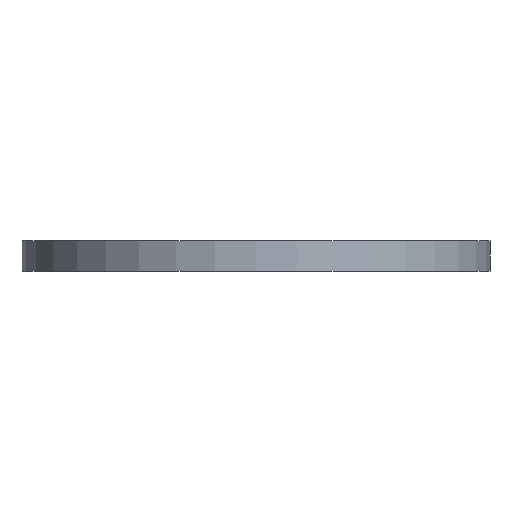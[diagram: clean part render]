
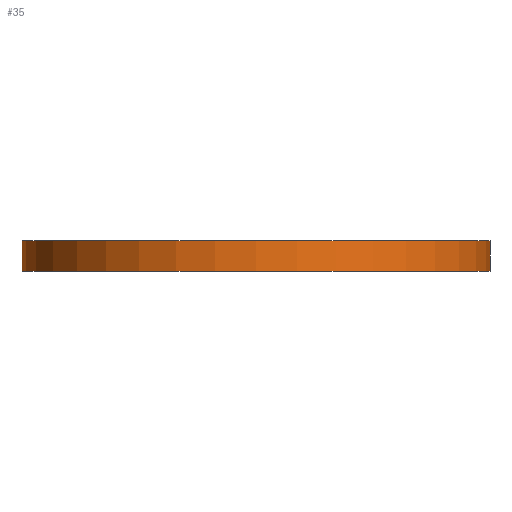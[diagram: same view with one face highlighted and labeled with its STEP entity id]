
A CAD part, front view. The second image highlights one B-rep face of the part: STEP entity #35.
In plain terms, the highlighted cylindrical face has radius 18.4 mm (diameter 36.8 mm), a full revolution.
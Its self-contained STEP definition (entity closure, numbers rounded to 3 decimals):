
#35 = ADVANCED_FACE('',(#36),#49,.T.);
#36 = FACE_BOUND('',#37,.T.);
#37 = EDGE_LOOP('',(#38,#72,#95,#122));
#38 = ORIENTED_EDGE('',*,*,#39,.F.);
#39 = EDGE_CURVE('',#40,#40,#42,.T.);
#40 = VERTEX_POINT('',#41);
#41 = CARTESIAN_POINT('',(18.4,0.,1.2));
#42 = SURFACE_CURVE('',#43,(#48,#60),.PCURVE_S1.);
#43 = CIRCLE('',#44,18.4);
#44 = AXIS2_PLACEMENT_3D('',#45,#46,#47);
#45 = CARTESIAN_POINT('',(0.,0.,1.2));
#46 = DIRECTION('',(0.,0.,1.));
#47 = DIRECTION('',(1.,0.,-0.));
#48 = PCURVE('',#49,#54);
#49 = CYLINDRICAL_SURFACE('',#50,18.4);
#50 = AXIS2_PLACEMENT_3D('',#51,#52,#53);
#51 = CARTESIAN_POINT('',(0.,0.,-1.2));
#52 = DIRECTION('',(0.,0.,1.));
#53 = DIRECTION('',(1.,0.,-0.));
#54 = DEFINITIONAL_REPRESENTATION('',(#55),#59);
#55 = LINE('',#56,#57);
#56 = CARTESIAN_POINT('',(0.,2.4));
#57 = VECTOR('',#58,1.);
#58 = DIRECTION('',(1.,0.));
#59 = ( GEOMETRIC_REPRESENTATION_CONTEXT(2) 
PARAMETRIC_REPRESENTATION_CONTEXT() REPRESENTATION_CONTEXT('2D SPACE',''
  ) );
#60 = PCURVE('',#61,#66);
#61 = PLANE('',#62);
#62 = AXIS2_PLACEMENT_3D('',#63,#64,#65);
#63 = CARTESIAN_POINT('',(0.,0.,1.2));
#64 = DIRECTION('',(0.,0.,1.));
#65 = DIRECTION('',(1.,0.,-0.));
#66 = DEFINITIONAL_REPRESENTATION('',(#67),#71);
#67 = CIRCLE('',#68,18.4);
#68 = AXIS2_PLACEMENT_2D('',#69,#70);
#69 = CARTESIAN_POINT('',(0.,0.));
#70 = DIRECTION('',(1.,0.));
#71 = ( GEOMETRIC_REPRESENTATION_CONTEXT(2) 
PARAMETRIC_REPRESENTATION_CONTEXT() REPRESENTATION_CONTEXT('2D SPACE',''
  ) );
#72 = ORIENTED_EDGE('',*,*,#73,.F.);
#73 = EDGE_CURVE('',#74,#40,#76,.T.);
#74 = VERTEX_POINT('',#75);
#75 = CARTESIAN_POINT('',(18.4,0.,-1.2));
#76 = SEAM_CURVE('',#77,(#81,#88),.PCURVE_S1.);
#77 = LINE('',#78,#79);
#78 = CARTESIAN_POINT('',(18.4,0.,-1.2));
#79 = VECTOR('',#80,1.);
#80 = DIRECTION('',(0.,0.,1.));
#81 = PCURVE('',#49,#82);
#82 = DEFINITIONAL_REPRESENTATION('',(#83),#87);
#83 = LINE('',#84,#85);
#84 = CARTESIAN_POINT('',(0.,0.));
#85 = VECTOR('',#86,1.);
#86 = DIRECTION('',(0.,1.));
#87 = ( GEOMETRIC_REPRESENTATION_CONTEXT(2) 
PARAMETRIC_REPRESENTATION_CONTEXT() REPRESENTATION_CONTEXT('2D SPACE',''
  ) );
#88 = PCURVE('',#49,#89);
#89 = DEFINITIONAL_REPRESENTATION('',(#90),#94);
#90 = LINE('',#91,#92);
#91 = CARTESIAN_POINT('',(6.283,0.));
#92 = VECTOR('',#93,1.);
#93 = DIRECTION('',(0.,1.));
#94 = ( GEOMETRIC_REPRESENTATION_CONTEXT(2) 
PARAMETRIC_REPRESENTATION_CONTEXT() REPRESENTATION_CONTEXT('2D SPACE',''
  ) );
#95 = ORIENTED_EDGE('',*,*,#96,.T.);
#96 = EDGE_CURVE('',#74,#74,#97,.T.);
#97 = SURFACE_CURVE('',#98,(#103,#110),.PCURVE_S1.);
#98 = CIRCLE('',#99,18.4);
#99 = AXIS2_PLACEMENT_3D('',#100,#101,#102);
#100 = CARTESIAN_POINT('',(0.,0.,-1.2));
#101 = DIRECTION('',(0.,0.,1.));
#102 = DIRECTION('',(1.,0.,-0.));
#103 = PCURVE('',#49,#104);
#104 = DEFINITIONAL_REPRESENTATION('',(#105),#109);
#105 = LINE('',#106,#107);
#106 = CARTESIAN_POINT('',(0.,0.));
#107 = VECTOR('',#108,1.);
#108 = DIRECTION('',(1.,0.));
#109 = ( GEOMETRIC_REPRESENTATION_CONTEXT(2) 
PARAMETRIC_REPRESENTATION_CONTEXT() REPRESENTATION_CONTEXT('2D SPACE',''
  ) );
#110 = PCURVE('',#111,#116);
#111 = PLANE('',#112);
#112 = AXIS2_PLACEMENT_3D('',#113,#114,#115);
#113 = CARTESIAN_POINT('',(0.,0.,-1.2));
#114 = DIRECTION('',(0.,0.,1.));
#115 = DIRECTION('',(1.,0.,-0.));
#116 = DEFINITIONAL_REPRESENTATION('',(#117),#121);
#117 = CIRCLE('',#118,18.4);
#118 = AXIS2_PLACEMENT_2D('',#119,#120);
#119 = CARTESIAN_POINT('',(0.,0.));
#120 = DIRECTION('',(1.,0.));
#121 = ( GEOMETRIC_REPRESENTATION_CONTEXT(2) 
PARAMETRIC_REPRESENTATION_CONTEXT() REPRESENTATION_CONTEXT('2D SPACE',''
  ) );
#122 = ORIENTED_EDGE('',*,*,#73,.T.);
